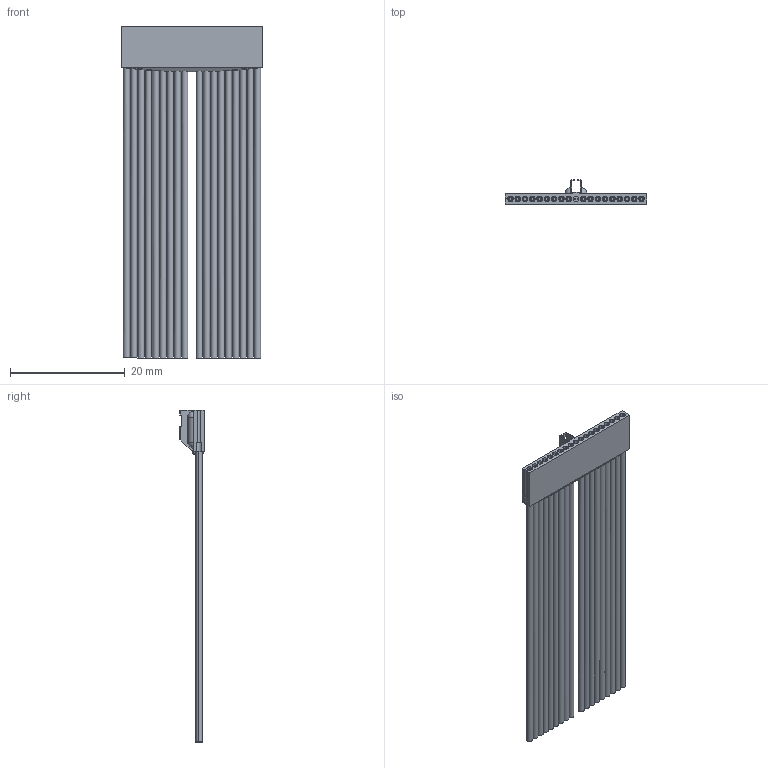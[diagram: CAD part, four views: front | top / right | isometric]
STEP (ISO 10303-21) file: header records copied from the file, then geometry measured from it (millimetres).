
FILE_DESCRIPTION (( 'STEP AP214' ), '1' );
FILE_NAME ('A24000-018.STEP', '2015-11-04T12:55:06', ( '' ), ( '' ), 'SwSTEP 2.0', 'SolidWorks 2015', '' );
FILE_SCHEMA (( 'AUTOMOTIVE_DESIGN' ));
Length unit declared in the file: inch
Products named in the file (1): A24000-018
Bounding box: 24.64 x 4.34 x 57.94 mm (x, y, z)
Volume: 1153 mm3; surface area: 4327 mm2
Topology: 1 solids, 19 shells, 936 faces, 2420 edges, 1561 vertices
Faces by surface type: plane 466, cylinder 286, cone 108, bspline 72, sphere 4
Entity records: 32365 total; most frequent: CARTESIAN_POINT 10159, ORIENTED_EDGE 4824, DIRECTION 4408, EDGE_CURVE 2412, AXIS2_PLACEMENT_3D 1673, VERTEX_POINT 1561, VECTOR 1062, LINE 1062
